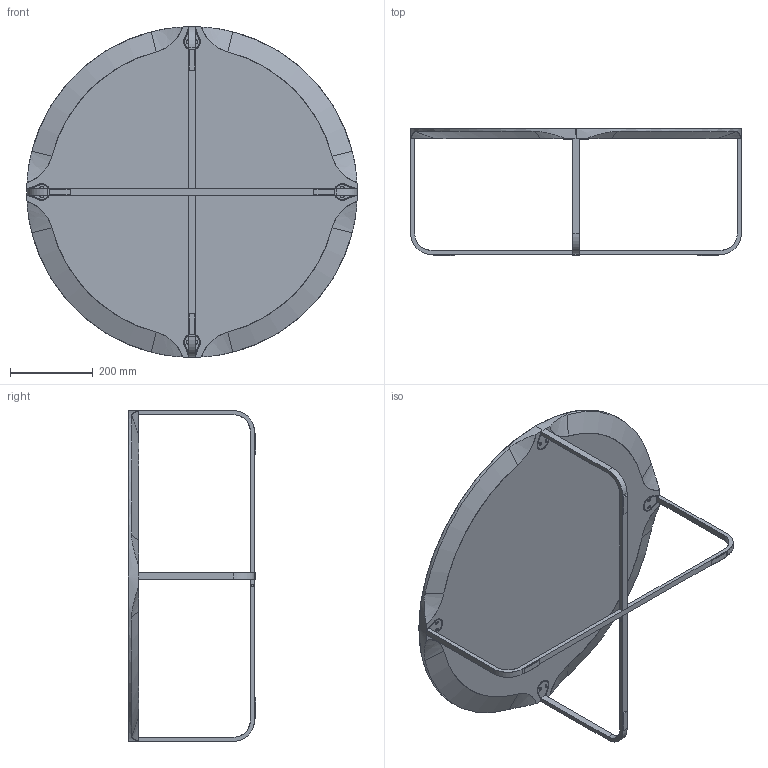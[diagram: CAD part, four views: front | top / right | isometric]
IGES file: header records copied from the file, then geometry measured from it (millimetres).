
Start section: SolidWorks IGES file using analytic representation for surfaces
Global section: file name: G:\CAD-FILES\3D Montis\3D_IGS\Flint tafel 0800-300.IGS; native system: SolidWorks 2007; preprocessor: SolidWorks 2007; author: gerard; date: 060929.091033; units: millimetre
Bounding box: 800 x 308 x 800 mm (x, y, z)
Surface area: 1183260.4 mm2 (no closed solid volume)
Topology: 0 solids, 0 shells, 174 faces, 2734 edges, 2734 vertices
Faces by surface type: revolution 92, bspline 82
